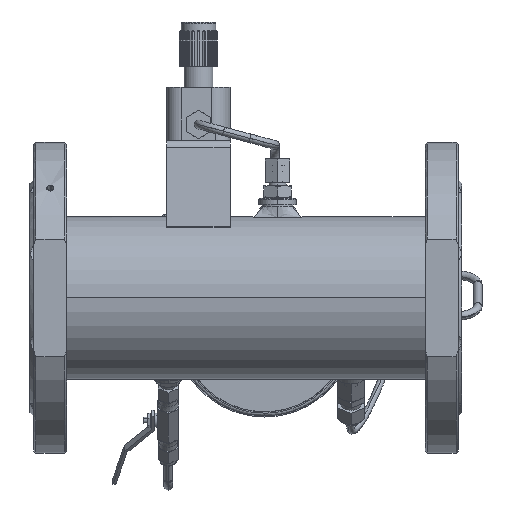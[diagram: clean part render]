
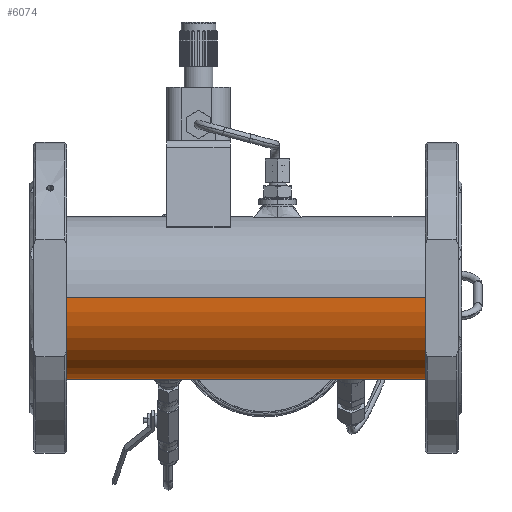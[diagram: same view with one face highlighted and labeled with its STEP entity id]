
A CAD part, front view. The second image highlights one B-rep face of the part: STEP entity #6074.
In plain terms, the highlighted cylindrical face has radius 56.5 mm (diameter 113 mm), a partial arc.
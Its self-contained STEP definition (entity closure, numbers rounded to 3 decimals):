
#4949=CARTESIAN_POINT('',(74.547,56.5,0.));
#4957=CARTESIAN_POINT('',(137.,56.5,0.));
#4972=CARTESIAN_POINT('',(175.,56.5,0.));
#5078=CARTESIAN_POINT('',(0.,0.,0.));
#5079=DIRECTION('',(-1.,0.,0.));
#5080=DIRECTION('',(0.,1.,0.));
#5081=AXIS2_PLACEMENT_3D('',#5078,#5079,#5080);
#5110=CARTESIAN_POINT('',(199.5,31.761,-46.728));
#5111=CARTESIAN_POINT('',(198.155,37.701,-42.69));
#5112=CARTESIAN_POINT('',(198.155,42.69,-37.701));
#5113=CARTESIAN_POINT('',(199.5,46.728,-31.761));
#5118=DIRECTION('',(1.,0.,0.));
#5119=VECTOR('',#5118,33.);
#5120=CARTESIAN_POINT('',(199.5,46.728,-31.761));
#5121=LINE('',#5120,#5119);
#5125=CARTESIAN_POINT('',(232.5,46.728,-31.761));
#5126=CARTESIAN_POINT('',(233.845,42.69,-37.701));
#5127=CARTESIAN_POINT('',(233.845,37.701,-42.69));
#5128=CARTESIAN_POINT('',(232.5,31.761,-46.728));
#5133=DIRECTION('',(1.,0.,0.));
#5134=VECTOR('',#5133,33.);
#5135=CARTESIAN_POINT('',(199.5,31.761,-46.728));
#5136=LINE('',#5135,#5134);
#5140=CARTESIAN_POINT('',(72.5,31.761,-46.728));
#5141=CARTESIAN_POINT('',(71.155,37.701,-42.69));
#5142=CARTESIAN_POINT('',(71.155,42.69,-37.701));
#5143=CARTESIAN_POINT('',(72.5,46.728,-31.761));
#5148=DIRECTION('',(1.,0.,0.));
#5149=VECTOR('',#5148,33.);
#5150=CARTESIAN_POINT('',(72.5,46.728,-31.761));
#5151=LINE('',#5150,#5149);
#5155=CARTESIAN_POINT('',(105.5,46.728,-31.761));
#5156=CARTESIAN_POINT('',(106.845,42.69,-37.701));
#5157=CARTESIAN_POINT('',(106.845,37.701,-42.69));
#5158=CARTESIAN_POINT('',(105.5,31.761,-46.728));
#5163=DIRECTION('',(1.,0.,0.));
#5164=VECTOR('',#5163,33.);
#5165=CARTESIAN_POINT('',(72.5,31.761,-46.728));
#5166=LINE('',#5165,#5164);
#5170=CARTESIAN_POINT('',(57.226,55.608,-10.));
#5171=CARTESIAN_POINT('',(62.988,56.206,-6.673));
#5172=CARTESIAN_POINT('',(68.762,56.5,-3.34));
#5173=CARTESIAN_POINT('',(74.547,56.5,0.));
#5178=CARTESIAN_POINT('',(57.226,0.,0.));
#5179=DIRECTION('',(1.,0.,0.));
#5180=DIRECTION('',(0.,0.984,-0.177));
#5181=AXIS2_PLACEMENT_3D('',#5178,#5179,#5180);
#5186=DIRECTION('',(1.,0.,0.));
#5187=VECTOR('',#5186,20.);
#5188=CARTESIAN_POINT('',(37.226,56.42,-3.));
#5189=LINE('',#5188,#5187);
#5193=CARTESIAN_POINT('',(37.226,0.,0.));
#5194=DIRECTION('',(1.,0.,0.));
#5195=DIRECTION('',(0.,0.999,-0.053));
#5196=AXIS2_PLACEMENT_3D('',#5193,#5194,#5195);
#5201=DIRECTION('',(-1.,0.,0.));
#5202=VECTOR('',#5201,37.226);
#5203=CARTESIAN_POINT('',(37.226,56.5,0.));
#5204=LINE('',#5203,#5202);
#5208=DIRECTION('',(-1.,0.,0.));
#5209=VECTOR('',#5208,287.);
#5210=CARTESIAN_POINT('',(287.,-56.5,0.));
#5211=LINE('',#5210,#5209);
#5215=CARTESIAN_POINT('',(287.,0.,0.));
#5216=DIRECTION('',(-1.,0.,0.));
#5217=DIRECTION('',(0.,1.,0.));
#5218=AXIS2_PLACEMENT_3D('',#5215,#5216,#5217);
#5223=DIRECTION('',(-1.,0.,0.));
#5224=VECTOR('',#5223,112.);
#5225=CARTESIAN_POINT('',(287.,56.5,0.));
#5226=LINE('',#5225,#5224);
#5230=CARTESIAN_POINT('',(174.,55.5,-10.583));
#5231=CARTESIAN_POINT('',(174.661,56.161,-7.117));
#5232=CARTESIAN_POINT('',(175.,56.5,-3.59));
#5233=CARTESIAN_POINT('',(175.,56.5,0.));
#5238=DIRECTION('',(1.,0.,0.));
#5239=VECTOR('',#5238,36.);
#5240=CARTESIAN_POINT('',(138.,55.5,-10.583));
#5241=LINE('',#5240,#5239);
#5245=CARTESIAN_POINT('',(138.,55.5,-10.583));
#5246=CARTESIAN_POINT('',(137.339,56.161,-7.117));
#5247=CARTESIAN_POINT('',(137.,56.5,-3.59));
#5248=CARTESIAN_POINT('',(137.,56.5,0.));
#5253=DIRECTION('',(-1.,0.,0.));
#5254=VECTOR('',#5253,62.453);
#5255=CARTESIAN_POINT('',(137.,56.5,0.));
#5256=LINE('',#5255,#5254);
#5695=CARTESIAN_POINT('',(287.,-56.5,0.));
#5696=CARTESIAN_POINT('',(0.,-56.5,0.));
#5697=VERTEX_POINT('',#5695);
#5698=VERTEX_POINT('',#5696);
#5699=CARTESIAN_POINT('',(287.,56.5,0.));
#5700=VERTEX_POINT('',#5699);
#5701=CARTESIAN_POINT('',(0.,56.5,0.));
#5702=VERTEX_POINT('',#5701);
#5703=VERTEX_POINT('',#4957);
#5707=VERTEX_POINT('',#4972);
#5708=VERTEX_POINT('',#5245);
#5709=CARTESIAN_POINT('',(174.,55.5,-10.583));
#5710=VERTEX_POINT('',#5709);
#5715=VERTEX_POINT('',#5110);
#5716=VERTEX_POINT('',#5113);
#5717=VERTEX_POINT('',#5125);
#5718=VERTEX_POINT('',#5128);
#5719=VERTEX_POINT('',#5140);
#5720=VERTEX_POINT('',#5143);
#5721=VERTEX_POINT('',#5155);
#5722=VERTEX_POINT('',#5158);
#5781=CARTESIAN_POINT('',(37.226,56.5,0.));
#5783=VERTEX_POINT('',#5781);
#5789=VERTEX_POINT('',#4949);
#5790=VERTEX_POINT('',#5170);
#5791=CARTESIAN_POINT('',(57.226,56.42,-3.));
#5792=VERTEX_POINT('',#5791);
#5793=CARTESIAN_POINT('',(37.226,56.42,-3.));
#5794=VERTEX_POINT('',#5793);
#6027=CARTESIAN_POINT('',(-14.35,0.,0.));
#6028=DIRECTION('',(1.,0.,0.));
#6029=DIRECTION('',(0.,-1.,0.));
#6030=AXIS2_PLACEMENT_3D('',#6027,#6028,#6029);
#6031=CYLINDRICAL_SURFACE('',#6030,56.5);
#6033=ORIENTED_EDGE('',*,*,#6032,.F.);
#6035=ORIENTED_EDGE('',*,*,#6034,.T.);
#6037=ORIENTED_EDGE('',*,*,#6036,.F.);
#6039=ORIENTED_EDGE('',*,*,#6038,.T.);
#6040=ORIENTED_EDGE('',*,*,#5848,.T.);
#6041=ORIENTED_EDGE('',*,*,#6009,.T.);
#6042=ORIENTED_EDGE('',*,*,#5844,.F.);
#6043=ORIENTED_EDGE('',*,*,#5802,.F.);
#6044=ORIENTED_EDGE('',*,*,#5841,.T.);
#6046=ORIENTED_EDGE('',*,*,#6045,.F.);
#6048=ORIENTED_EDGE('',*,*,#6047,.F.);
#6050=ORIENTED_EDGE('',*,*,#6049,.T.);
#6051=ORIENTED_EDGE('',*,*,#5833,.T.);
#6052=EDGE_LOOP('',(#6033,#6035,#6037,#6039,#6040,#6041,#6042,#6043,#6044,#6046,
#6048,#6050,#6051));
#6053=FACE_OUTER_BOUND('',#6052,.F.);
#6055=ORIENTED_EDGE('',*,*,#6054,.T.);
#6057=ORIENTED_EDGE('',*,*,#6056,.T.);
#6059=ORIENTED_EDGE('',*,*,#6058,.T.);
#6061=ORIENTED_EDGE('',*,*,#6060,.F.);
#6062=EDGE_LOOP('',(#6055,#6057,#6059,#6061));
#6063=FACE_BOUND('',#6062,.F.);
#6065=ORIENTED_EDGE('',*,*,#6064,.T.);
#6067=ORIENTED_EDGE('',*,*,#6066,.T.);
#6069=ORIENTED_EDGE('',*,*,#6068,.T.);
#6071=ORIENTED_EDGE('',*,*,#6070,.F.);
#6072=EDGE_LOOP('',(#6065,#6067,#6069,#6071));
#6073=FACE_BOUND('',#6072,.F.);
#5082=CIRCLE('',#5081,56.5);
#5114=B_SPLINE_CURVE_WITH_KNOTS('',3,(#5110,#5111,#5112,#5113),.UNSPECIFIED.,
.F.,.F.,(4,4),(0.,1.),.UNSPECIFIED.);
#5129=B_SPLINE_CURVE_WITH_KNOTS('',3,(#5125,#5126,#5127,#5128),.UNSPECIFIED.,
.F.,.F.,(4,4),(0.,1.),.UNSPECIFIED.);
#5144=B_SPLINE_CURVE_WITH_KNOTS('',3,(#5140,#5141,#5142,#5143),.UNSPECIFIED.,
.F.,.F.,(4,4),(0.,1.),.UNSPECIFIED.);
#5159=B_SPLINE_CURVE_WITH_KNOTS('',3,(#5155,#5156,#5157,#5158),.UNSPECIFIED.,
.F.,.F.,(4,4),(0.,1.),.UNSPECIFIED.);
#5174=B_SPLINE_CURVE_WITH_KNOTS('',3,(#5170,#5171,#5172,#5173),.UNSPECIFIED.,
.F.,.F.,(4,4),(0.,1.),.UNSPECIFIED.);
#5182=CIRCLE('',#5181,56.5);
#5197=CIRCLE('',#5196,56.5);
#5219=CIRCLE('',#5218,56.5);
#5234=B_SPLINE_CURVE_WITH_KNOTS('',3,(#5230,#5231,#5232,#5233),.UNSPECIFIED.,
.F.,.F.,(4,4),(0.,1.),.UNSPECIFIED.);
#5249=B_SPLINE_CURVE_WITH_KNOTS('',3,(#5245,#5246,#5247,#5248),.UNSPECIFIED.,
.F.,.F.,(4,4),(0.,1.),.UNSPECIFIED.);
#5802=EDGE_CURVE('',#5700,#5697,#5219,.T.);
#5833=EDGE_CURVE('',#5703,#5789,#5256,.T.);
#5841=EDGE_CURVE('',#5700,#5707,#5226,.T.);
#5844=EDGE_CURVE('',#5697,#5698,#5211,.T.);
#5848=EDGE_CURVE('',#5783,#5702,#5204,.T.);
#6009=EDGE_CURVE('',#5702,#5698,#5082,.T.);
#6032=EDGE_CURVE('',#5790,#5789,#5174,.T.);
#6034=EDGE_CURVE('',#5790,#5792,#5182,.T.);
#6036=EDGE_CURVE('',#5794,#5792,#5189,.T.);
#6038=EDGE_CURVE('',#5794,#5783,#5197,.T.);
#6045=EDGE_CURVE('',#5710,#5707,#5234,.T.);
#6047=EDGE_CURVE('',#5708,#5710,#5241,.T.);
#6049=EDGE_CURVE('',#5708,#5703,#5249,.T.);
#6054=EDGE_CURVE('',#5719,#5720,#5144,.T.);
#6056=EDGE_CURVE('',#5720,#5721,#5151,.T.);
#6058=EDGE_CURVE('',#5721,#5722,#5159,.T.);
#6060=EDGE_CURVE('',#5719,#5722,#5166,.T.);
#6064=EDGE_CURVE('',#5715,#5716,#5114,.T.);
#6066=EDGE_CURVE('',#5716,#5717,#5121,.T.);
#6068=EDGE_CURVE('',#5717,#5718,#5129,.T.);
#6070=EDGE_CURVE('',#5715,#5718,#5136,.T.);
#6074=ADVANCED_FACE('',(#6053,#6063,#6073),#6031,.T.);
